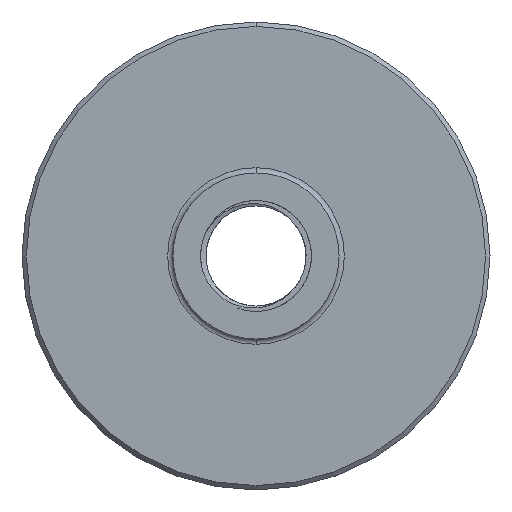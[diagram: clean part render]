
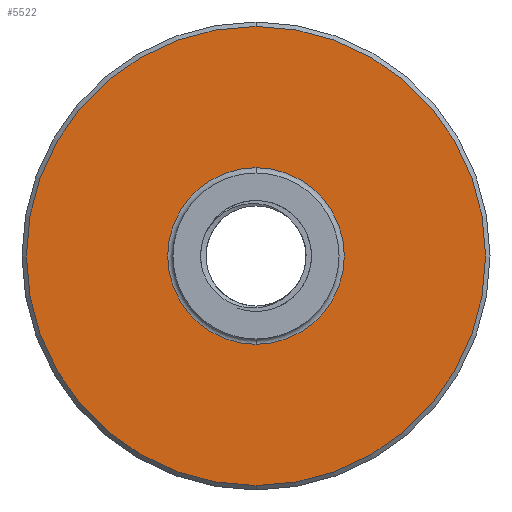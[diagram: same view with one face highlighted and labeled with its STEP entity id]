
A CAD part, front view. The second image highlights one B-rep face of the part: STEP entity #5522.
In plain terms, the highlighted planar face has unit normal (0, -1, 0).
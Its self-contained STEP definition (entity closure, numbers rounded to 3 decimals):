
#1096 = AXIS2_PLACEMENT_3D ( 'NONE', #25853, #38212, #39027 ) ;
#4008 = DIRECTION ( 'NONE',  ( 0., 0., 1. ) ) ;
#4336 = AXIS2_PLACEMENT_3D ( 'NONE', #5830, #41036, #15046 ) ;
#5430 = VERTEX_POINT ( 'NONE', #18519 ) ;
#5522 = ADVANCED_FACE ( 'NONE', ( #37393, #8885 ), #5742, .T. ) ;
#5742 = PLANE ( 'NONE',  #1096 ) ;
#5830 = CARTESIAN_POINT ( 'NONE',  ( 135.062, -303.508, 310.943 ) ) ;
#6765 = CARTESIAN_POINT ( 'NONE',  ( 135.062, -303.508, 310.943 ) ) ;
#7872 = EDGE_CURVE ( 'NONE', #8055, #26068, #28099, .T. ) ;
#8055 = VERTEX_POINT ( 'NONE', #20787 ) ;
#8885 = FACE_BOUND ( 'NONE', #9777, .T. ) ;
#9777 = EDGE_LOOP ( 'NONE', ( #24337, #21220 ) ) ;
#12470 = CIRCLE ( 'NONE', #23192, 130. ) ;
#13683 = DIRECTION ( 'NONE',  ( 0., 0., 1. ) ) ;
#15046 = DIRECTION ( 'NONE',  ( 0., 0., 1. ) ) ;
#15396 = DIRECTION ( 'NONE',  ( 0., 0., 1. ) ) ;
#18519 = CARTESIAN_POINT ( 'NONE',  ( 135.062, -303.508, 180.943 ) ) ;
#18772 = EDGE_CURVE ( 'NONE', #26068, #8055, #32495, .T. ) ;
#20048 = AXIS2_PLACEMENT_3D ( 'NONE', #20169, #28769, #13683 ) ;
#20169 = CARTESIAN_POINT ( 'NONE',  ( 135.062, -303.508, 310.943 ) ) ;
#20787 = CARTESIAN_POINT ( 'NONE',  ( 135.062, -303.508, 260.943 ) ) ;
#21220 = ORIENTED_EDGE ( 'NONE', *, *, #7872, .T. ) ;
#23192 = AXIS2_PLACEMENT_3D ( 'NONE', #6765, #23297, #4008 ) ;
#23297 = DIRECTION ( 'NONE',  ( 0., -1., 0. ) ) ;
#24266 = ORIENTED_EDGE ( 'NONE', *, *, #26506, .T. ) ;
#24337 = ORIENTED_EDGE ( 'NONE', *, *, #18772, .T. ) ;
#24810 = CARTESIAN_POINT ( 'NONE',  ( 135.062, -303.508, 440.943 ) ) ;
#25853 = CARTESIAN_POINT ( 'NONE',  ( 88.062, -303.508, 310.943 ) ) ;
#26068 = VERTEX_POINT ( 'NONE', #27989 ) ;
#26490 = VERTEX_POINT ( 'NONE', #24810 ) ;
#26506 = EDGE_CURVE ( 'NONE', #5430, #26490, #12470, .T. ) ;
#27989 = CARTESIAN_POINT ( 'NONE',  ( 135.062, -303.508, 360.943 ) ) ;
#28099 = CIRCLE ( 'NONE', #20048, 50. ) ;
#28394 = CARTESIAN_POINT ( 'NONE',  ( 135.062, -303.508, 310.943 ) ) ;
#28432 = AXIS2_PLACEMENT_3D ( 'NONE', #28394, #34683, #15396 ) ;
#28769 = DIRECTION ( 'NONE',  ( 0., 1., 0. ) ) ;
#32495 = CIRCLE ( 'NONE', #4336, 50. ) ;
#33149 = CIRCLE ( 'NONE', #28432, 130. ) ;
#34260 = ORIENTED_EDGE ( 'NONE', *, *, #35958, .T. ) ;
#34683 = DIRECTION ( 'NONE',  ( 0., -1., 0. ) ) ;
#35958 = EDGE_CURVE ( 'NONE', #26490, #5430, #33149, .T. ) ;
#37393 = FACE_OUTER_BOUND ( 'NONE', #38928, .T. ) ;
#38212 = DIRECTION ( 'NONE',  ( 0., -1., 0. ) ) ;
#38928 = EDGE_LOOP ( 'NONE', ( #24266, #34260 ) ) ;
#39027 = DIRECTION ( 'NONE',  ( 0., 0., 1. ) ) ;
#41036 = DIRECTION ( 'NONE',  ( 0., 1., 0. ) ) ;
